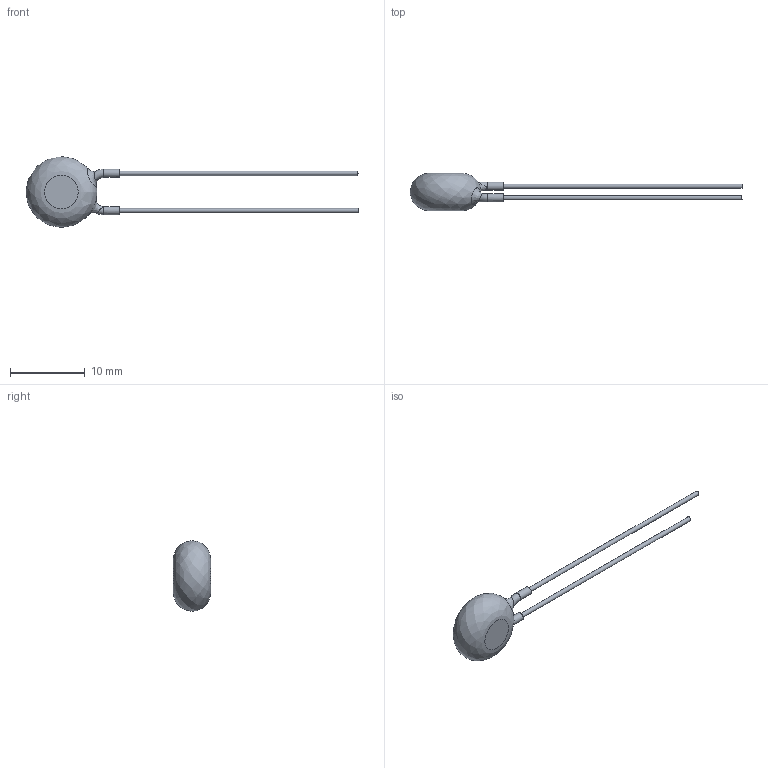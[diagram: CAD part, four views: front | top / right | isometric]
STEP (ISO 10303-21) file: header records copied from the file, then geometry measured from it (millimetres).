
FILE_DESCRIPTION((''),'2;1');
FILE_NAME('I:\Marketing\M6t1\3D-Models\Zchng-Werk-3\Upload for homepage\BCC\AY2\Y5U-5mm\AY2222M35Y5US63L5\AY2222M35Y5US63L5.stp','2015-09-09T08:47:06',(''),(''),'Autodesk Inventor 2013','Autodesk Inventor 2013','');
FILE_SCHEMA(('AUTOMOTIVE_DESIGN { 1 0 10303 214 1 1 1 1 }'));
Length unit declared in the file: centimetre
Products named in the file (1): AY2222M35Y5US63L5
Bounding box: 44.5 x 5 x 9.5 mm (x, y, z)
Volume: 309.6 mm3; surface area: 366.8 mm2
Topology: 1 solids, 1 shells, 15 faces, 27 edges, 18 vertices
Faces by surface type: plane 6, cylinder 4, bspline 3, torus 2
Full cylindrical faces by diameter (mm): 0.6 x2, 1.1 x2
Entity records: 749 total; most frequent: CARTESIAN_POINT 456, DIRECTION 50, ORIENTED_EDGE 32, EDGE_LOOP 26, AXIS2_PLACEMENT_3D 25, EDGE_CURVE 16, STYLED_ITEM 16, FACE_OUTER_BOUND 15
